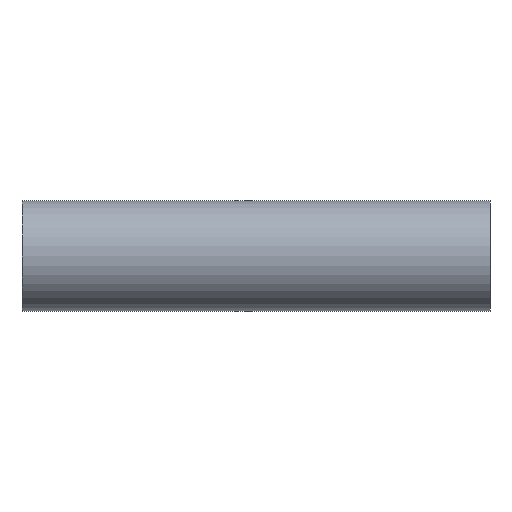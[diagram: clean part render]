
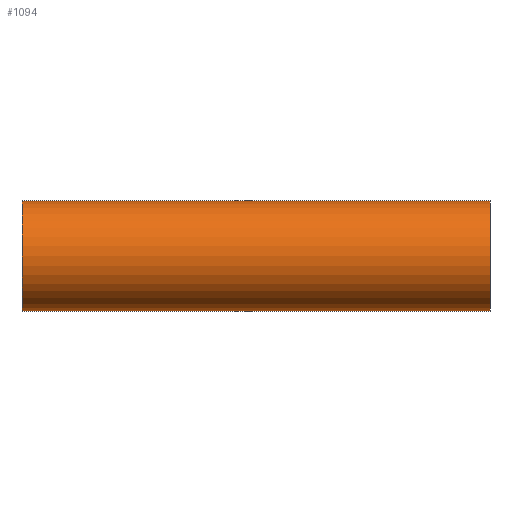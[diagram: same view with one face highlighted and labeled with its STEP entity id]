
A CAD part, front view. The second image highlights one B-rep face of the part: STEP entity #1094.
In plain terms, the highlighted cylindrical face has radius 12.7 mm (diameter 25.4 mm), a partial arc.
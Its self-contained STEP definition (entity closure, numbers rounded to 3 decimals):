
#48 = DIRECTION ( 'NONE',  ( -1., 0., 0. ) ) ;
#49 = EDGE_CURVE ( 'NONE', #407, #1202, #698, .T. ) ;
#63 = DIRECTION ( 'NONE',  ( 0., 0., -1. ) ) ;
#77 = CARTESIAN_POINT ( 'NONE',  ( -54., 0., 12.7 ) ) ;
#90 = CARTESIAN_POINT ( 'NONE',  ( -54., 0., 12.7 ) ) ;
#155 = DIRECTION ( 'NONE',  ( 1., 0., 0. ) ) ;
#164 = CARTESIAN_POINT ( 'NONE',  ( -54., 0., 0. ) ) ;
#173 = ORIENTED_EDGE ( 'NONE', *, *, #482, .T. ) ;
#227 = FACE_OUTER_BOUND ( 'NONE', #1016, .T. ) ;
#244 = CYLINDRICAL_SURFACE ( 'NONE', #692, 12.7 ) ;
#264 = ORIENTED_EDGE ( 'NONE', *, *, #328, .T. ) ;
#275 = LINE ( 'NONE', #77, #290 ) ;
#290 = VECTOR ( 'NONE', #463, 1000. ) ;
#310 = AXIS2_PLACEMENT_3D ( 'NONE', #1042, #48, #63 ) ;
#328 = EDGE_CURVE ( 'NONE', #1202, #1140, #695, .T. ) ;
#341 = AXIS2_PLACEMENT_3D ( 'NONE', #164, #1036, #1078 ) ;
#346 = VERTEX_POINT ( 'NONE', #90 ) ;
#407 = VERTEX_POINT ( 'NONE', #1210 ) ;
#463 = DIRECTION ( 'NONE',  ( 1., 0., 0. ) ) ;
#482 = EDGE_CURVE ( 'NONE', #346, #407, #604, .T. ) ;
#499 = DIRECTION ( 'NONE',  ( 0., 0., -1. ) ) ;
#538 = ORIENTED_EDGE ( 'NONE', *, *, #49, .T. ) ;
#547 = CARTESIAN_POINT ( 'NONE',  ( 54., 0., 12.7 ) ) ;
#583 = ORIENTED_EDGE ( 'NONE', *, *, #1190, .F. ) ;
#595 = CARTESIAN_POINT ( 'NONE',  ( -54., 0., 0. ) ) ;
#604 = CIRCLE ( 'NONE', #341, 12.7 ) ;
#623 = DIRECTION ( 'NONE',  ( 1., 0., 0. ) ) ;
#657 = CARTESIAN_POINT ( 'NONE',  ( -54., 0., -12.7 ) ) ;
#692 = AXIS2_PLACEMENT_3D ( 'NONE', #595, #623, #499 ) ;
#695 = CIRCLE ( 'NONE', #310, 12.7 ) ;
#698 = LINE ( 'NONE', #657, #1150 ) ;
#1016 = EDGE_LOOP ( 'NONE', ( #583, #173, #538, #264 ) ) ;
#1036 = DIRECTION ( 'NONE',  ( 1., 0., 0. ) ) ;
#1042 = CARTESIAN_POINT ( 'NONE',  ( 54., 0., 0. ) ) ;
#1078 = DIRECTION ( 'NONE',  ( 0., 0., -1. ) ) ;
#1094 = ADVANCED_FACE ( 'NONE', ( #227 ), #244, .T. ) ;
#1140 = VERTEX_POINT ( 'NONE', #547 ) ;
#1144 = CARTESIAN_POINT ( 'NONE',  ( 54., 0., -12.7 ) ) ;
#1150 = VECTOR ( 'NONE', #155, 1000. ) ;
#1190 = EDGE_CURVE ( 'NONE', #346, #1140, #275, .T. ) ;
#1202 = VERTEX_POINT ( 'NONE', #1144 ) ;
#1210 = CARTESIAN_POINT ( 'NONE',  ( -54., 0., -12.7 ) ) ;
